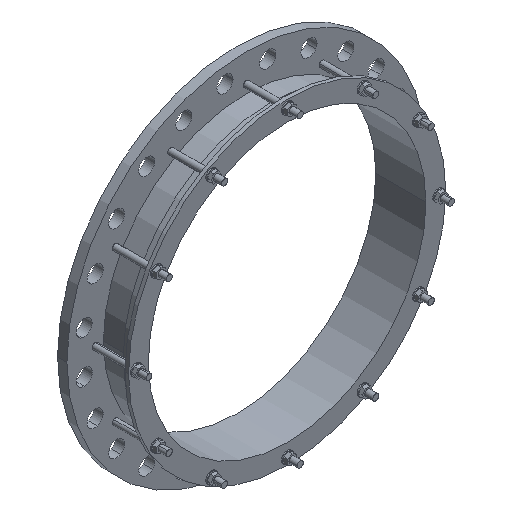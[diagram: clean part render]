
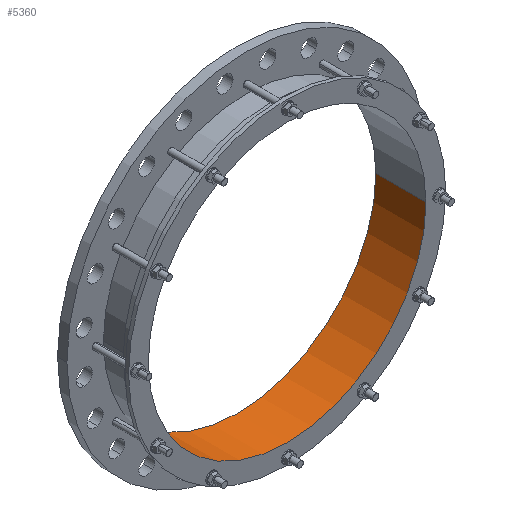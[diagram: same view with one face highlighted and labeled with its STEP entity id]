
A CAD part, isometric view. The second image highlights one B-rep face of the part: STEP entity #5360.
In plain terms, the highlighted cylindrical face has radius 371.25 mm (diameter 742.5 mm), a partial arc.
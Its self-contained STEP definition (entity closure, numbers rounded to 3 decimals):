
#7=CARTESIAN_POINT('',(0.,25.,0.));
#8=DIRECTION('',(0.,1.,0.));
#9=DIRECTION('',(1.,0.,0.));
#10=AXIS2_PLACEMENT_3D('',#7,#8,#9);
#1459=CARTESIAN_POINT('',(0.,-109.,0.));
#1460=DIRECTION('',(0.,1.,0.));
#1461=DIRECTION('',(1.,0.,0.));
#1462=AXIS2_PLACEMENT_3D('',#1459,#1460,#1461);
#1464=DIRECTION('',(0.,1.,0.));
#1465=VECTOR('',#1464,134.);
#1466=CARTESIAN_POINT('',(371.25,-109.,0.));
#1467=LINE('',#1466,#1465);
#1468=DIRECTION('',(0.,1.,0.));
#1469=VECTOR('',#1468,134.);
#1470=CARTESIAN_POINT('',(-371.25,-109.,0.));
#1471=LINE('',#1470,#1469);
#3632=CARTESIAN_POINT('',(371.25,-109.,0.));
#3633=CARTESIAN_POINT('',(371.25,25.,0.));
#3634=VERTEX_POINT('',#3632);
#3635=VERTEX_POINT('',#3633);
#3644=CARTESIAN_POINT('',(-371.25,-109.,0.));
#3645=CARTESIAN_POINT('',(-371.25,25.,0.));
#3646=VERTEX_POINT('',#3644);
#3647=VERTEX_POINT('',#3645);
#5347=CARTESIAN_POINT('',(0.,-115.7,0.));
#5348=DIRECTION('',(0.,1.,0.));
#5349=DIRECTION('',(-1.,0.,0.));
#5350=AXIS2_PLACEMENT_3D('',#5347,#5348,#5349);
#5351=CYLINDRICAL_SURFACE('',#5350,371.25);
#5353=ORIENTED_EDGE('',*,*,#5352,.F.);
#5354=ORIENTED_EDGE('',*,*,#5270,.T.);
#5356=ORIENTED_EDGE('',*,*,#5355,.T.);
#5357=ORIENTED_EDGE('',*,*,#4473,.F.);
#5358=EDGE_LOOP('',(#5353,#5354,#5356,#5357));
#5359=FACE_OUTER_BOUND('',#5358,.F.);
#5360=ADVANCED_FACE('',(#5359),#5351,.F.);
#11=CIRCLE('',#10,371.25);
#1463=CIRCLE('',#1462,371.25);
#4473=EDGE_CURVE('',#3635,#3647,#11,.T.);
#5270=EDGE_CURVE('',#3634,#3646,#1463,.T.);
#5352=EDGE_CURVE('',#3634,#3635,#1467,.T.);
#5355=EDGE_CURVE('',#3646,#3647,#1471,.T.);
